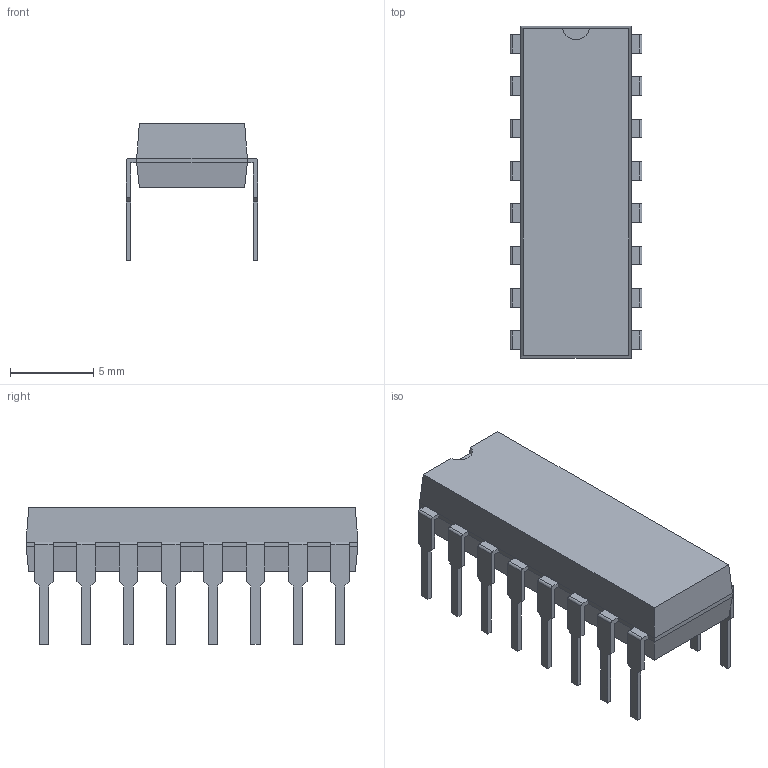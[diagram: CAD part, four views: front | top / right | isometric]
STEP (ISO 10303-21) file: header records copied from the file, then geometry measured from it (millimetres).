
FILE_DESCRIPTION(('FreeCAD Model'),'2;1');
FILE_NAME('/var/www/3D/0T/186704.1.2.stp','2020-04-07T22:21:33',( 'Author'),(''),'Open CASCADE STEP processor 6.9','FreeCAD','Unknown' );
FILE_SCHEMA(('AUTOMOTIVE_DESIGN { 1 0 10303 214 1 1 1 1 }'));
Length unit declared in the file: millimetre
Products named in the file (3): ASSEMBLY; Body; PinsArrayLR
Assembly tree (2 placements, depth 2):
  ASSEMBLY
    Body
    PinsArrayLR
Bounding box: 7.9 x 19.92 x 8.2 mm (x, y, z)
Volume: 517.4 mm3; surface area: 683.2 mm2
Topology: 17 solids, 17 shells, 224 faces, 562 edges, 372 vertices
Faces by surface type: plane 207, cylinder 17
Entity records: 14113 total; most frequent: CARTESIAN_POINT 2399, DIRECTION 2156, LINE 1610, VECTOR 1610, ORIENTED_EDGE 1124, PCURVE 1124, DEFINITIONAL_REPRESENTATION 1124, EDGE_CURVE 562
